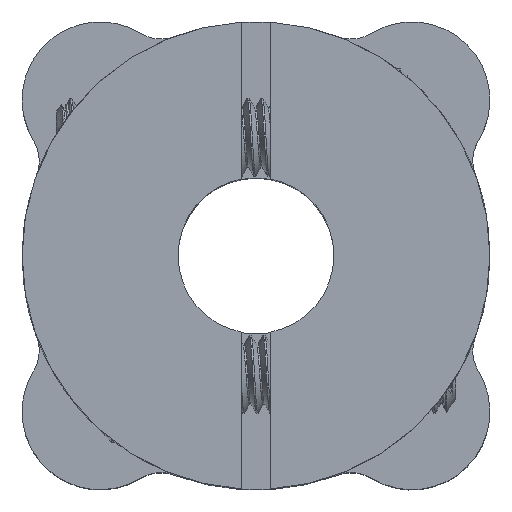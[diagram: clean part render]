
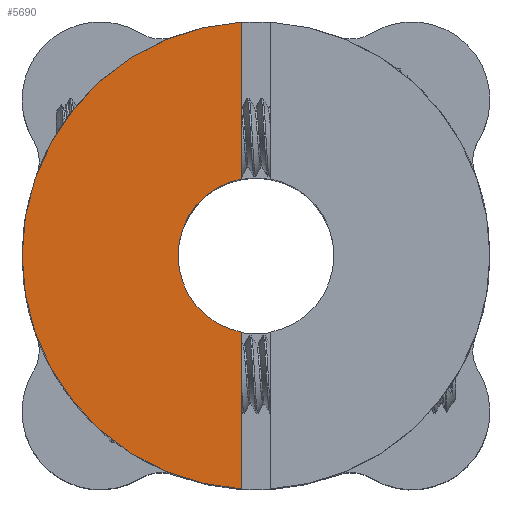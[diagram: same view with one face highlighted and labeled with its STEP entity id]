
A CAD part, top view. The second image highlights one B-rep face of the part: STEP entity #5690.
In plain terms, the highlighted planar face has unit normal (0, 0, 1).
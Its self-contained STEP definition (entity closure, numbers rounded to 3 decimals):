
#126 = CARTESIAN_POINT ( 'NONE',  ( -4., 0., 20. ) ) ;
#426 = EDGE_CURVE ( 'NONE', #17742, #17085, #10266, .T. ) ;
#1053 = CIRCLE ( 'NONE', #37502, 4. ) ;
#1135 = VECTOR ( 'NONE', #33908, 1000. ) ;
#2658 = CARTESIAN_POINT ( 'NONE',  ( -0.75, 0., 20. ) ) ;
#2666 = DIRECTION ( 'NONE',  ( 0., 0., 1. ) ) ;
#2902 = CARTESIAN_POINT ( 'NONE',  ( -12., 0., 20. ) ) ;
#5690 = ADVANCED_FACE ( 'NONE', ( #37696 ), #40557, .T. ) ;
#6744 = DIRECTION ( 'NONE',  ( 1., 0., 0. ) ) ;
#7159 = VERTEX_POINT ( 'NONE', #43996 ) ;
#7481 = CARTESIAN_POINT ( 'NONE',  ( -0.75, -3.929, 20. ) ) ;
#7529 = CIRCLE ( 'NONE', #33131, 12. ) ;
#8519 = DIRECTION ( 'NONE',  ( 0., 0., -1. ) ) ;
#8650 = CARTESIAN_POINT ( 'NONE',  ( -0.75, 11.977, 20. ) ) ;
#9214 = ORIENTED_EDGE ( 'NONE', *, *, #11093, .T. ) ;
#10035 = DIRECTION ( 'NONE',  ( -1., 0., 0. ) ) ;
#10266 = LINE ( 'NONE', #2658, #1135 ) ;
#10847 = CARTESIAN_POINT ( 'NONE',  ( 0., 0., 20. ) ) ;
#11093 = EDGE_CURVE ( 'NONE', #34479, #19944, #1053, .T. ) ;
#11368 = EDGE_CURVE ( 'NONE', #19944, #17742, #27469, .T. ) ;
#13409 = ORIENTED_EDGE ( 'NONE', *, *, #11368, .T. ) ;
#15745 = DIRECTION ( 'NONE',  ( 0., 0., 1. ) ) ;
#16513 = VERTEX_POINT ( 'NONE', #2902 ) ;
#16609 = ORIENTED_EDGE ( 'NONE', *, *, #16827, .T. ) ;
#16827 = EDGE_CURVE ( 'NONE', #17085, #16513, #28896, .T. ) ;
#17085 = VERTEX_POINT ( 'NONE', #8650 ) ;
#17742 = VERTEX_POINT ( 'NONE', #39157 ) ;
#19558 = DIRECTION ( 'NONE',  ( 0., 1., 0. ) ) ;
#19874 = CARTESIAN_POINT ( 'NONE',  ( 0., 0., 20. ) ) ;
#19944 = VERTEX_POINT ( 'NONE', #126 ) ;
#20180 = CARTESIAN_POINT ( 'NONE',  ( 0., 0., 20. ) ) ;
#21603 = EDGE_CURVE ( 'NONE', #7159, #34479, #31179, .T. ) ;
#22024 = VECTOR ( 'NONE', #19558, 1000. ) ;
#22881 = DIRECTION ( 'NONE',  ( 1., 0., 0. ) ) ;
#24978 = EDGE_CURVE ( 'NONE', #16513, #7159, #7529, .T. ) ;
#27469 = CIRCLE ( 'NONE', #34905, 4. ) ;
#27816 = ORIENTED_EDGE ( 'NONE', *, *, #426, .T. ) ;
#28896 = CIRCLE ( 'NONE', #40512, 12. ) ;
#30272 = DIRECTION ( 'NONE',  ( 1., 0., 0. ) ) ;
#30355 = ORIENTED_EDGE ( 'NONE', *, *, #24978, .T. ) ;
#31179 = LINE ( 'NONE', #40249, #22024 ) ;
#33131 = AXIS2_PLACEMENT_3D ( 'NONE', #10847, #41647, #6744 ) ;
#33908 = DIRECTION ( 'NONE',  ( 0., 1., 0. ) ) ;
#34479 = VERTEX_POINT ( 'NONE', #7481 ) ;
#34905 = AXIS2_PLACEMENT_3D ( 'NONE', #20180, #44311, #10035 ) ;
#35888 = CARTESIAN_POINT ( 'NONE',  ( 0., 0., 20. ) ) ;
#37502 = AXIS2_PLACEMENT_3D ( 'NONE', #35888, #8519, #39381 ) ;
#37696 = FACE_OUTER_BOUND ( 'NONE', #38474, .T. ) ;
#38474 = EDGE_LOOP ( 'NONE', ( #9214, #13409, #27816, #16609, #30355, #43874 ) ) ;
#39157 = CARTESIAN_POINT ( 'NONE',  ( -0.75, 3.929, 20. ) ) ;
#39381 = DIRECTION ( 'NONE',  ( -1., 0., 0. ) ) ;
#40249 = CARTESIAN_POINT ( 'NONE',  ( -0.75, 0., 20. ) ) ;
#40302 = AXIS2_PLACEMENT_3D ( 'NONE', #19874, #2666, #30272 ) ;
#40512 = AXIS2_PLACEMENT_3D ( 'NONE', #43965, #15745, #22881 ) ;
#40557 = PLANE ( 'NONE',  #40302 ) ;
#41647 = DIRECTION ( 'NONE',  ( 0., 0., 1. ) ) ;
#43874 = ORIENTED_EDGE ( 'NONE', *, *, #21603, .T. ) ;
#43965 = CARTESIAN_POINT ( 'NONE',  ( 0., 0., 20. ) ) ;
#43996 = CARTESIAN_POINT ( 'NONE',  ( -0.75, -11.977, 20. ) ) ;
#44311 = DIRECTION ( 'NONE',  ( 0., 0., -1. ) ) ;
